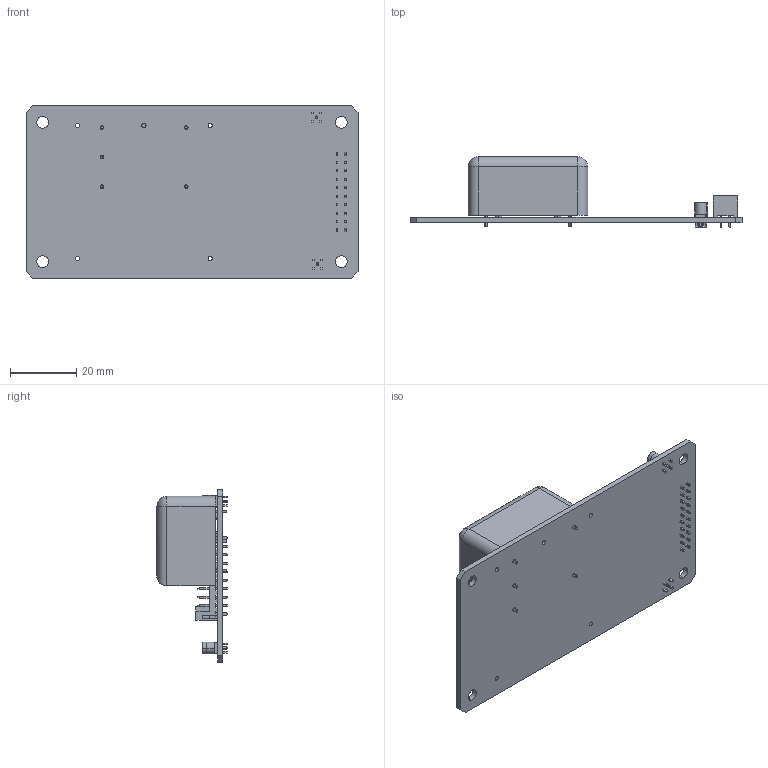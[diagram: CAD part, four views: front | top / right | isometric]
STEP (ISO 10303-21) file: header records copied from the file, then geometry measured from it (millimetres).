
FILE_DESCRIPTION( (''), '2;1');
FILE_NAME ('GF-8805_3D_DATA.stp','2019-09-19T13:06:25',(''),(''),'spGate 15.6.6','','');
FILE_SCHEMA (('AUTOMOTIVE_DESIGN'));
Length unit declared in the file: millimetre
Products named in the file (7): Assembly; GF-8805_3D_DATA-prt0; GF-8805_3D_DATA-prt1; GF-8805_3D_DATA-prt2; GF-8805_3D_DATA-prt3; GF-8805_3D_DATA-prt4; GF-8805_3D_DATA-prt5
Assembly tree (6 placements, depth 2):
  Assembly
    GF-8805_3D_DATA-prt0
    GF-8805_3D_DATA-prt1
    GF-8805_3D_DATA-prt2
    GF-8805_3D_DATA-prt3
    GF-8805_3D_DATA-prt4
    GF-8805_3D_DATA-prt5
Bounding box: 100 x 21.36 x 52 mm (x, y, z)
Volume: 25650.2 mm3; surface area: 17057.4 mm2
Topology: 6 solids, 6 shells, 665 faces, 1581 edges, 990 vertices
Faces by surface type: plane 581, cylinder 77, bspline 4, sphere 3
Entity records: 32007 total; most frequent: CARTESIAN_POINT 3359, ORIENTED_EDGE 3156, DIRECTION 3013, COLOUR_RGB 2249, PRESENTATION_STYLE_ASSIGNMENT 2249, STYLED_ITEM 2249, EDGE_CURVE 1578, DRAUGHTING_PRE_DEFINED_CURVE_FONT 1578
